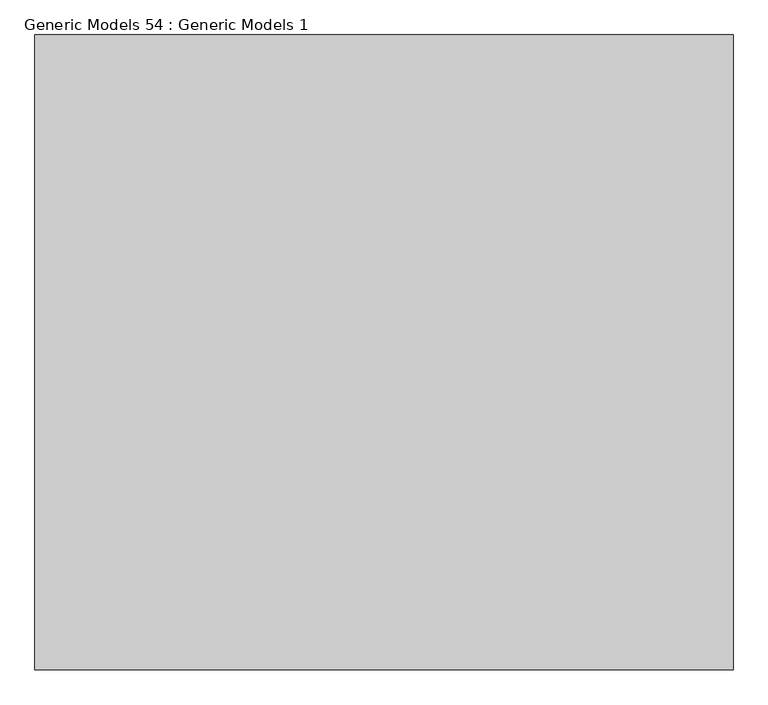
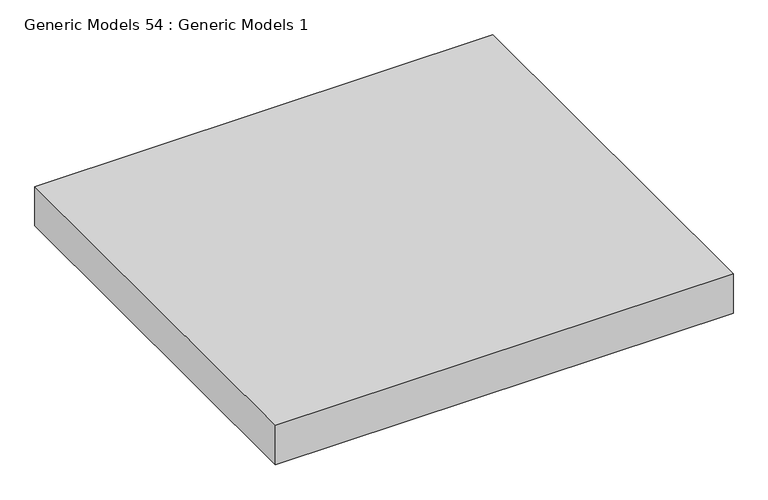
"""IFC4 building model written with IfcOpenShell, lengths in millimetres: proxy geometry, Generic Models 54 : Generic Models 1."""

from ifc_helpers import new_model, si_unit, origin, origin_with_axes, place, context, project, spatial, polyline, outline, extrude, source, transform, mapped, element, save


def generic_models_54_generic_models_1_2d09a9ca(model_context):
    return source(origin(), model_context, "Body", "SweptSolid", [
        extrude(outline(polyline([(-1704.8268345, -6624.1855869), (-1704.8268345, -5624.1855869), (-604.8268345, -5624.1855869), (-604.8268345, -6624.1855869), (-1704.8268345, -6624.1855869)])), origin_with_axes(), (0.0, 0.0, 1.0), 100.0),
    ])


if __name__ == "__main__":
    model = new_model("IFC4")
    model_context = context("Model", 3, world=origin())
    ifc_project = project(units=[si_unit("LENGTHUNIT", "METRE", prefix="MILLI")], contexts=[model_context])
    site = spatial("IfcSite", under=ifc_project)
    building = spatial("IfcBuilding", under=site)
    placement = place(None, origin())
    generic_models_54_generic_models_1_shape = generic_models_54_generic_models_1_2d09a9ca(model_context)
    element("IfcBuildingElementProxy", 1, Name="Generic Models 54 : Generic Models 1", ObjectType="Generic Models 54 : Generic Models 1", at=placement, inside=building, context=model_context, shape_type="MappedRepresentation", body=[
        mapped(generic_models_54_generic_models_1_shape, transform((0.0, 0.0, 0.0), x_axis=(1.0, 0.0, 0.0), y_axis=(0.0, 1.0, 0.0), z_axis=(0.0, 0.0, 1.0))),
    ])
    save(model, "model.ifc")
